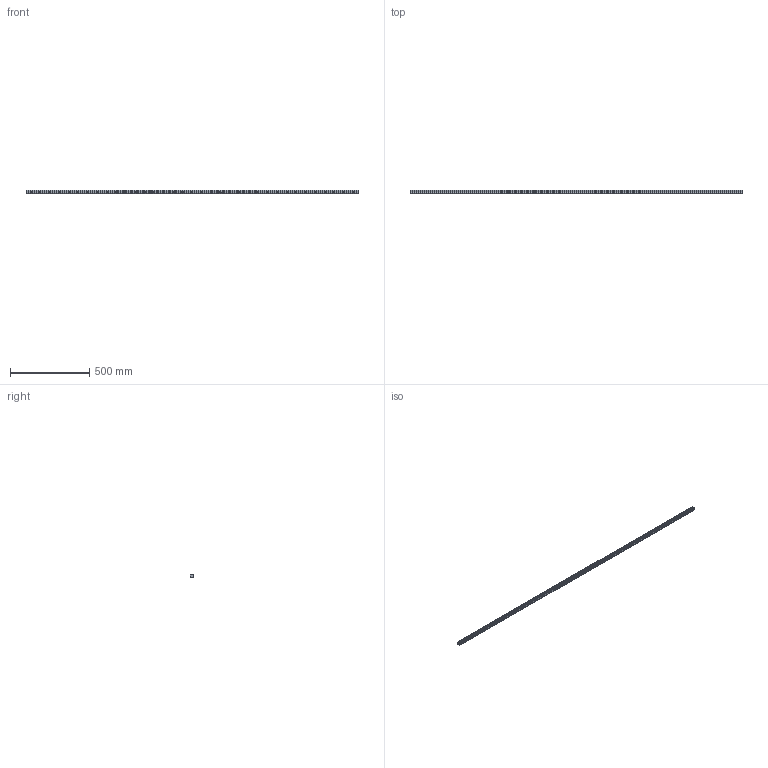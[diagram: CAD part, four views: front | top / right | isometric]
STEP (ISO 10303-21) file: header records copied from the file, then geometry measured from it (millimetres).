
FILE_DESCRIPTION (( 'STEP AP203' ), '1' );
FILE_NAME ('L1018.20R-2100.step', '2023-08-06T09:11:15', ( '' ), ( '' ), 'SwSTEP 2.0', 'SolidWorks 2019', '' );
FILE_SCHEMA (( 'CONFIG_CONTROL_DESIGN' ));
Length unit declared in the file: millimetre
Products named in the file (1): L1018.20R-2100
Bounding box: 2100 x 19.3 x 20 mm (x, y, z)
Volume: 665969.4 mm3; surface area: 177871.6 mm2
Topology: 1 solids, 1 shells, 344 faces, 781 edges, 439 vertices
Faces by surface type: cylinder 143, cone 140, plane 61
Entity records: 9188 total; most frequent: DIRECTION 1757, CARTESIAN_POINT 1495, ORIENTED_EDGE 1422, EDGE_CURVE 711, AXIS2_PLACEMENT_3D 701, VERTEX_POINT 439, EDGE_LOOP 414, CIRCLE 356
